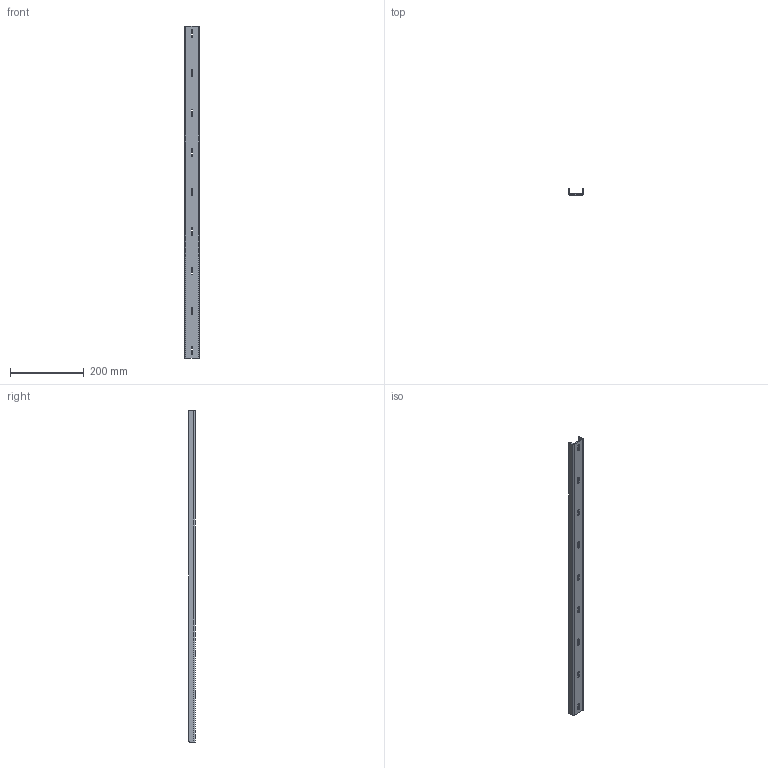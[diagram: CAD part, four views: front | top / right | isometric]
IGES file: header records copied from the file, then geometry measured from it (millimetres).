
Start section: SolidWorks IGES file using analytic representation for surfaces
Bounding box: 40 x 17 x 900 mm (x, y, z)
Surface area: 124708 mm2 (no closed solid volume)
Topology: 0 solids, 0 shells, 106 faces, 1370 edges, 1370 vertices
Faces by surface type: bspline 74, revolution 32
